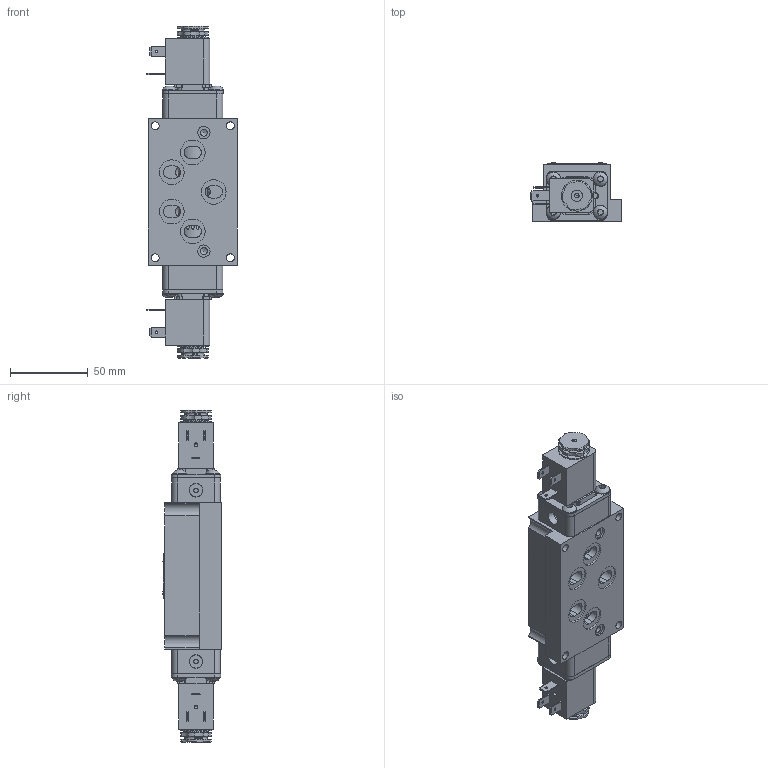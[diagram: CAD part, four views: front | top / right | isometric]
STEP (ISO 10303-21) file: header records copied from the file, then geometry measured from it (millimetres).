
FILE_DESCRIPTION(/* description */ (''),/* implementation_level */ '2;1');
FILE_NAME(/* name */ 'ESS3PCZ.stp',/* time_stamp */ '2026-09-27T15:30:48-04:00',/* author */ ('rmckenna'),/* organization */ (''),/* preprocessor_version */ 'ST-DEVELOPER v20.2',/* originating_system */ 'Autodesk Inventor 2027',/* authorisation */ '');
FILE_SCHEMA (('AUTOMOTIVE_DESIGN { 1 0 10303 214 3 1 1 }'));
Products named in the file (1): Part125
Bounding box: 58.17 x 37.86 x 213.66 mm (x, y, z)
Volume: 213901.8 mm3; surface area: 80319.9 mm2
Topology: 1 solids, 28 shells, 1945 faces, 4844 edges, 3091 vertices
Faces by surface type: plane 867, cylinder 613, cone 256, torus 141, bspline 58, sphere 10
Full cylindrical faces by diameter (mm): 1.168 x20, 1.3 x2, 1.397 x2, 1.5 x2, 1.651 x6, 2.032 x8, 2.07 x2, 2.261 x2, 2.35 x8, 2.464 x2, 2.778 x2, 2.8 x2, 2.819 x2, 3 x8, 3.048 x2, 3.4 x2, 3.683 x10, 3.861 x2, 4.191 x4, 4.366 x2, 4.369 x3, 4.826 x8, 4.953 x2, 5.15 x8, 5.156 x8, 5.159 x4, 5.5 x2, 6.553 x2, 7.29 x2, 7.925 x2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
Entity records: 65568 total; most frequent: CARTESIAN_POINT 16615, DIRECTION 9926, ORIENTED_EDGE 9640, EDGE_CURVE 4820, AXIS2_PLACEMENT_3D 3764, VERTEX_POINT 3087, LINE 2398, VECTOR 2398
